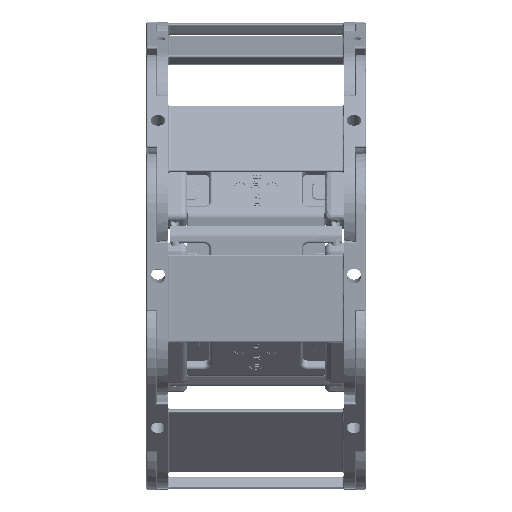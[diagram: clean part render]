
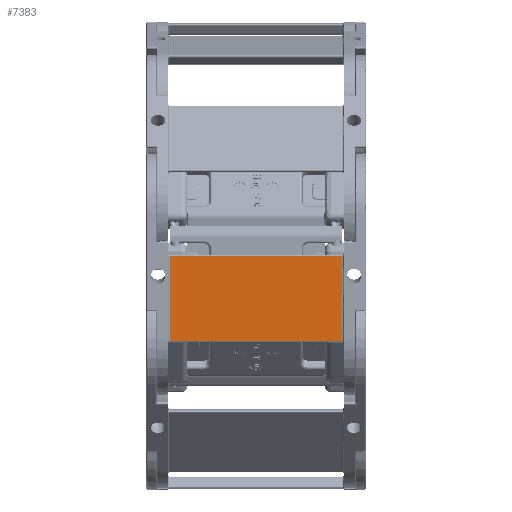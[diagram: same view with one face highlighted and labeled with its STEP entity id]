
A CAD part, front view. The second image highlights one B-rep face of the part: STEP entity #7383.
In plain terms, the highlighted planar face has unit normal (0, -0.999, -0.033) as drawn and (0.132, 0, 0.991) by its records, which use the part's own axes.
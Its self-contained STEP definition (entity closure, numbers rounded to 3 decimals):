
#292=CARTESIAN_POINT('',(47.817,8.875,146.031));
#293=VERTEX_POINT('',#292);
#310=CARTESIAN_POINT('',(76.561,8.875,142.19));
#311=VERTEX_POINT('',#310);
#319=CARTESIAN_POINT('',(47.817,8.875,146.031));
#320=DIRECTION('',(0.991,0.,-0.132));
#321=VECTOR('',#320,29.);
#322=LINE('',#319,#321);
#323=EDGE_CURVE('',#293,#311,#322,.T.);
#7234=CARTESIAN_POINT('',(76.561,67.875,142.19));
#7235=VERTEX_POINT('',#7234);
#7243=CARTESIAN_POINT('',(76.561,67.875,142.19));
#7244=DIRECTION('',(0.0,-1.0,0.0));
#7245=VECTOR('',#7244,59.);
#7246=LINE('',#7243,#7245);
#7247=EDGE_CURVE('',#7235,#311,#7246,.T.);
#7360=CARTESIAN_POINT('',(77.58,20.375,142.054));
#7361=DIRECTION('',(0.132,0.,0.991));
#7362=DIRECTION('',(0.0,1.0,0.0));
#7363=AXIS2_PLACEMENT_3D('',#7360,#7361,#7362);
#7364=PLANE('',#7363);
#7365=ORIENTED_EDGE('',*,*,#7247,.F.);
#7366=CARTESIAN_POINT('',(47.817,67.875,146.031));
#7367=VERTEX_POINT('',#7366);
#7368=CARTESIAN_POINT('',(47.817,67.875,146.031));
#7369=DIRECTION('',(0.991,0.,-0.132));
#7370=VECTOR('',#7369,29.);
#7371=LINE('',#7368,#7370);
#7372=EDGE_CURVE('',#7367,#7235,#7371,.T.);
#7373=ORIENTED_EDGE('',*,*,#7372,.F.);
#7374=CARTESIAN_POINT('',(47.817,8.875,146.031));
#7375=DIRECTION('',(0.0,1.0,0.0));
#7376=VECTOR('',#7375,59.);
#7377=LINE('',#7374,#7376);
#7378=EDGE_CURVE('',#293,#7367,#7377,.T.);
#7379=ORIENTED_EDGE('',*,*,#7378,.F.);
#7380=ORIENTED_EDGE('',*,*,#323,.T.);
#7381=EDGE_LOOP('',(#7365,#7373,#7379,#7380));
#7382=FACE_OUTER_BOUND('',#7381,.T.);
#7383=ADVANCED_FACE('',(#7382),#7364,.T.);
